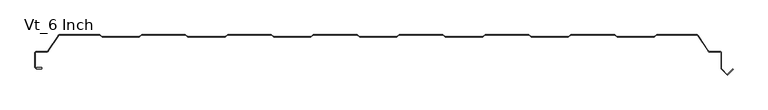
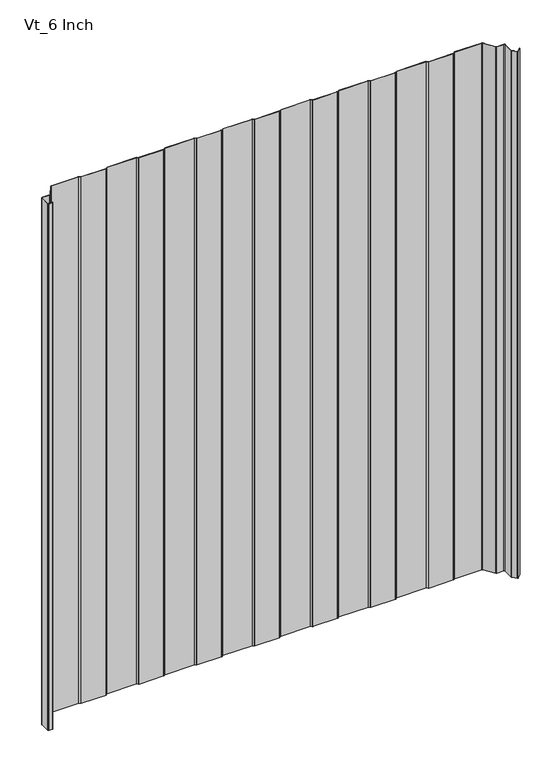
"""IFC4 building model written with IfcOpenShell, lengths in millimetres: plate geometry, KIP_R19_CP_KingSeam_Vt_Roof Panel : Vt_6 Inch."""

from ifc_helpers import new_model, si_unit, point, frame_2d, origin, origin_with_axes, place, context, project, spatial, polyline, circle_curve, trimmed, segment, composite_curve, outline, extrude, source, transform, mapped, element, save


def vt_6_inch_eceeb9c5(model_context):
    return source(origin(), model_context, "Body", "SweptSolid", [
        extrude(outline(composite_curve([segment(polyline([(353.2057294, -152.6158084), (349.7460358, -150.115881), (285.172478, -150.115881), (281.7127828, -152.615809)]), True, "CONTINUOUS"), segment(trimmed(circle_curve(frame_2d((280.8342564, -151.4000005)), 1.4999996), [point((281.7127828, -152.615809))], [point((280.833285, -152.8999998))], False, "CARTESIAN"), True, "CONTINUOUS"), segment(polyline([(280.833285, -152.8999998), (227.0842565, -152.8999998)]), True, "CONTINUOUS"), segment(trimmed(circle_curve(frame_2d((227.0842565, -151.3999998)), 1.5), [point((227.0842565, -152.8999998))], [point((226.2057297, -152.6158085))], False, "CARTESIAN"), True, "CONTINUOUS"), segment(polyline([(226.2057297, -152.6158085), (222.7460351, -150.1158804), (158.1724783, -150.1158804), (154.7127834, -152.6158085)]), True, "CONTINUOUS"), segment(trimmed(circle_curve(frame_2d((153.8342567, -151.3999998)), 1.4999999), [point((154.7127834, -152.6158085))], [point((153.8332853, -152.8999994))], False, "CARTESIAN"), True, "CONTINUOUS"), segment(polyline([(153.8332853, -152.8999994), (100.0842567, -152.8999994)]), True, "CONTINUOUS"), segment(trimmed(circle_curve(frame_2d((100.0842567, -151.3999995)), 1.4999999), [point((100.0842567, -152.8999994))], [point((99.20573, -152.6158082))], False, "CARTESIAN"), True, "CONTINUOUS"), segment(polyline([(99.20573, -152.6158082), (95.7460356, -150.1158804), (31.1724783, -150.1158804), (27.7127834, -152.6158085)]), True, "CONTINUOUS"), segment(trimmed(circle_curve(frame_2d((26.8342567, -151.3999998)), 1.5), [point((27.7127834, -152.6158085))], [point((26.8332853, -152.8999995))], False, "CARTESIAN"), True, "CONTINUOUS"), segment(polyline([(26.8332853, -152.8999995), (-26.9157433, -152.8999995)]), True, "CONTINUOUS"), segment(trimmed(circle_curve(frame_2d((-26.9157433, -151.3999995)), 1.5), [point((-26.9157433, -152.8999995))], [point((-27.79427, -152.6158082))], False, "CARTESIAN"), True, "CONTINUOUS"), segment(polyline([(-27.79427, -152.6158082), (-31.2539644, -150.1158804), (-95.8275217, -150.1158804), (-99.2872166, -152.6158085)]), True, "CONTINUOUS"), segment(trimmed(circle_curve(frame_2d((-100.1657433, -151.3999998)), 1.5), [point((-99.2872166, -152.6158085))], [point((-100.1667147, -152.8999995))], False, "CARTESIAN"), True, "CONTINUOUS"), segment(polyline([(-100.1667147, -152.8999995), (-153.9157432, -152.8999995)]), True, "CONTINUOUS"), segment(trimmed(circle_curve(frame_2d((-153.9157432, -151.3999995)), 1.5), [point((-153.9157432, -152.8999995))], [point((-154.79427, -152.6158082))], False, "CARTESIAN"), True, "CONTINUOUS"), segment(polyline([(-154.79427, -152.6158082), (-158.2539643, -150.1158804), (-222.8275216, -150.1158804), (-226.287216, -152.6158087)]), True, "CONTINUOUS"), segment(trimmed(circle_curve(frame_2d((-227.1657431, -151.3999998)), 1.5000003), [point((-226.287216, -152.6158087))], [point((-227.1667145, -152.8999999))], False, "CARTESIAN"), True, "CONTINUOUS"), segment(polyline([(-227.1667145, -152.8999999), (-280.9157431, -152.8999999)]), True, "CONTINUOUS"), segment(trimmed(circle_curve(frame_2d((-280.9157431, -151.3999998)), 1.5), [point((-280.9157431, -152.8999999))], [point((-281.7942699, -152.6158085))], False, "CARTESIAN"), True, "CONTINUOUS"), segment(polyline([(-281.7942699, -152.6158085), (-285.2539646, -150.1158804), (-349.8275214, -150.1158804), (-353.2872163, -152.6158085)]), True, "CONTINUOUS"), segment(trimmed(circle_curve(frame_2d((-354.165743, -151.3999999)), 1.4999999), [point((-353.2872163, -152.6158085))], [point((-354.1667144, -152.8999995))], False, "CARTESIAN"), True, "CONTINUOUS"), segment(polyline([(-354.1667144, -152.8999995), (-407.9157429, -152.8999995)]), True, "CONTINUOUS"), segment(trimmed(circle_curve(frame_2d((-407.9157429, -151.3999994)), 1.5000001), [point((-407.9157429, -152.8999995))], [point((-408.7942697, -152.6158081))], False, "CARTESIAN"), True, "CONTINUOUS"), segment(polyline([(-408.7942697, -152.6158081), (-412.2539635, -150.1158806), (-471.4278921, -150.1158806)]), True, "CONTINUOUS"), segment(trimmed(circle_curve(frame_2d((-471.4278921, -152.1158804)), 1.9999997), [point((-471.4278921, -150.1158806))], [point((-473.0959478, -151.0124361))], True, "CARTESIAN"), True, "CONTINUOUS"), segment(polyline([(-473.0959478, -151.0124361), (-488.2993864, -173.9951861)]), True, "CONTINUOUS"), segment(trimmed(circle_curve(frame_2d((-490.3844563, -172.6158807)), 2.4999999), [point((-488.2993864, -173.9951861))], [point((-490.3844563, -175.1158806))], False, "CARTESIAN"), True, "CONTINUOUS"), segment(polyline([(-490.3844563, -175.1158806), (-505.9407428, -175.1158806)]), True, "CONTINUOUS"), segment(trimmed(circle_curve(frame_2d((-505.9407428, -176.7158806)), 1.6), [point((-505.9407428, -175.1158806))], [point((-507.5407428, -176.7158806))], True, "CARTESIAN"), True, "CONTINUOUS"), segment(polyline([(-507.5407428, -176.7158806), (-507.5407428, -197.5669597)]), True, "CONTINUOUS"), segment(trimmed(circle_curve(frame_2d((-506.3507428, -197.5669597)), 1.19), [point((-507.5407428, -197.5669597))], [point((-507.1921999, -198.4084168))], True, "CARTESIAN"), True, "CONTINUOUS"), segment(polyline([(-507.1921999, -198.4084168), (-506.182179, -199.4184377)]), True, "CONTINUOUS"), segment(trimmed(circle_curve(frame_2d((-505.3407219, -198.5769807)), 1.19), [point((-506.182179, -199.4184377))], [point((-505.3407219, -199.7669807))], True, "CARTESIAN"), True, "CONTINUOUS"), segment(polyline([(-505.3407219, -199.7669807), (-498.6107428, -199.7669807)]), True, "CONTINUOUS"), segment(trimmed(circle_curve(frame_2d((-498.6107428, -199.3669807)), 0.4), [point((-498.6107428, -199.7669807))], [point((-498.6107428, -198.9669807))], True, "CARTESIAN"), True, "CONTINUOUS"), segment(polyline([(-498.6107428, -198.9669807), (-505.3407219, -198.9669807), (-505.3407219, -198.1669807), (-498.6107428, -198.1669807)]), True, "CONTINUOUS"), segment(trimmed(circle_curve(frame_2d((-498.6107428, -199.2169807)), 1.05), [point((-498.6107428, -198.1669807))], [point((-498.6107428, -200.2669807))], False, "CARTESIAN"), True, "CONTINUOUS"), segment(polyline([(-498.6107428, -200.2669807), (-505.3407219, -200.2669807)]), True, "CONTINUOUS"), segment(trimmed(circle_curve(frame_2d((-505.3407219, -198.5769807)), 1.69), [point((-505.3407219, -200.2669807))], [point((-506.5357325, -199.771991))], False, "CARTESIAN"), True, "CONTINUOUS"), segment(polyline([(-506.5357325, -199.771991), (-507.5457533, -198.76197)]), True, "CONTINUOUS"), segment(trimmed(circle_curve(frame_2d((-506.3507428, -197.5669597)), 1.6899998), [point((-507.5457533, -198.76197))], [point((-508.0407427, -197.5669597))], False, "CARTESIAN"), True, "CONTINUOUS"), segment(polyline([(-508.0407427, -197.5669597), (-508.0407427, -176.7158805)]), True, "CONTINUOUS"), segment(trimmed(circle_curve(frame_2d((-505.9407428, -176.7158805)), 2.0999998), [point((-508.0407427, -176.7158805))], [point((-505.9407428, -174.6158807))], False, "CARTESIAN"), True, "CONTINUOUS"), segment(polyline([(-505.9407428, -174.6158807), (-490.3844563, -174.6158807)]), True, "CONTINUOUS"), segment(trimmed(circle_curve(frame_2d((-490.3844563, -172.6158807)), 2.0), [point((-490.3844563, -174.6158807))], [point((-488.7164003, -173.719325))], True, "CARTESIAN"), True, "CONTINUOUS"), segment(polyline([(-488.7164003, -173.719325), (-473.512962, -150.7365749)]), True, "CONTINUOUS"), segment(trimmed(circle_curve(frame_2d((-471.4278921, -152.1158804)), 2.5), [point((-473.512962, -150.7365749))], [point((-471.4278921, -149.6158803))], False, "CARTESIAN"), True, "CONTINUOUS"), segment(polyline([(-471.4278921, -149.6158803), (-412.2539644, -149.6158803), (-408.7942697, -152.1158086)]), True, "CONTINUOUS"), segment(trimmed(circle_curve(frame_2d((-407.9157429, -150.8999998)), 1.5000002), [point((-408.7942697, -152.1158086))], [point((-407.9157429, -152.3999999))], True, "CARTESIAN"), True, "CONTINUOUS"), segment(polyline([(-407.9157429, -152.3999999), (-354.1657429, -152.3999999)]), True, "CONTINUOUS"), segment(trimmed(circle_curve(frame_2d((-354.1657429, -150.8999999)), 1.5), [point((-354.1657429, -152.3999999))], [point((-353.2872161, -152.1158086))], True, "CARTESIAN"), True, "CONTINUOUS"), segment(polyline([(-353.2872161, -152.1158086), (-349.8275214, -149.6158803), (-285.2539646, -149.6158803), (-281.7942699, -152.1158087)]), True, "CONTINUOUS"), segment(trimmed(circle_curve(frame_2d((-280.9157431, -150.9000001)), 1.5), [point((-281.7942699, -152.1158087))], [point((-280.9157431, -152.4000001))], True, "CARTESIAN"), True, "CONTINUOUS"), segment(polyline([(-280.9157431, -152.4000001), (-227.1657431, -152.4000001)]), True, "CONTINUOUS"), segment(trimmed(circle_curve(frame_2d((-227.1657431, -150.9000001)), 1.5), [point((-227.1657431, -152.4000001))], [point((-226.2872164, -152.1158088))], True, "CARTESIAN"), True, "CONTINUOUS"), segment(polyline([(-226.2872164, -152.1158088), (-222.8275211, -149.6158803), (-158.2539647, -149.6158803), (-154.79427, -152.1158086)]), True, "CONTINUOUS"), segment(trimmed(circle_curve(frame_2d((-153.9157433, -150.8999999)), 1.5), [point((-154.79427, -152.1158086))], [point((-153.9157433, -152.3999999))], True, "CARTESIAN"), True, "CONTINUOUS"), segment(polyline([(-153.9157433, -152.3999999), (-100.1657433, -152.3999999)]), True, "CONTINUOUS"), segment(trimmed(circle_curve(frame_2d((-100.1657433, -150.9000001)), 1.4999998), [point((-100.1657433, -152.3999999))], [point((-99.2872167, -152.1158087))], True, "CARTESIAN"), True, "CONTINUOUS"), segment(polyline([(-99.2872167, -152.1158087), (-95.8275213, -149.6158803), (-31.2539649, -149.6158803), (-27.7942701, -152.1158086)]), True, "CONTINUOUS"), segment(trimmed(circle_curve(frame_2d((-26.9157433, -150.8999999)), 1.5000001), [point((-27.7942701, -152.1158086))], [point((-26.9157433, -152.4))], True, "CARTESIAN"), True, "CONTINUOUS"), segment(polyline([(-26.9157433, -152.4), (26.8342567, -152.4)]), True, "CONTINUOUS"), segment(trimmed(circle_curve(frame_2d((26.8342567, -150.9000001)), 1.4999999), [point((26.8342567, -152.4))], [point((27.7127833, -152.1158087))], True, "CARTESIAN"), True, "CONTINUOUS"), segment(polyline([(27.7127833, -152.1158087), (31.1724787, -149.6158803), (95.7460351, -149.6158803), (99.20573, -152.1158084)]), True, "CONTINUOUS"), segment(trimmed(circle_curve(frame_2d((100.0842567, -150.8999998)), 1.4999999), [point((99.20573, -152.1158084))], [point((100.0842567, -152.3999997))], True, "CARTESIAN"), True, "CONTINUOUS"), segment(polyline([(100.0842567, -152.3999997), (153.8342567, -152.3999997)]), True, "CONTINUOUS"), segment(trimmed(circle_curve(frame_2d((153.8342567, -150.8999996)), 1.5), [point((153.8342567, -152.3999997))], [point((154.7127834, -152.1158084))], True, "CARTESIAN"), True, "CONTINUOUS"), segment(polyline([(154.7127834, -152.1158084), (158.1724783, -149.6158803), (222.7460351, -149.6158803), (226.2057297, -152.1158084)]), True, "CONTINUOUS"), segment(trimmed(circle_curve(frame_2d((227.0842565, -150.8999997)), 1.5), [point((226.2057297, -152.1158084))], [point((227.0842565, -152.3999997))], True, "CARTESIAN"), True, "CONTINUOUS"), segment(polyline([(227.0842565, -152.3999997), (280.8342564, -152.3999997)]), True, "CONTINUOUS"), segment(trimmed(circle_curve(frame_2d((280.8342564, -150.9000002)), 1.4999994), [point((280.8342564, -152.3999997))], [point((281.7127826, -152.1158086))], True, "CARTESIAN"), True, "CONTINUOUS"), segment(polyline([(281.7127826, -152.1158086), (285.1724789, -149.6158803), (349.7460348, -149.6158803), (353.2057295, -152.1158083)]), True, "CONTINUOUS"), segment(trimmed(circle_curve(frame_2d((354.0842562, -150.8999997)), 1.4999999), [point((353.2057295, -152.1158083))], [point((354.0842562, -152.3999996))], True, "CARTESIAN"), True, "CONTINUOUS"), segment(polyline([(354.0842562, -152.3999996), (407.8342561, -152.3999996)]), True, "CONTINUOUS"), segment(trimmed(circle_curve(frame_2d((407.8342561, -150.8999999)), 1.4999998), [point((407.8342561, -152.3999996))], [point((408.7127826, -152.1158084))], True, "CARTESIAN"), True, "CONTINUOUS"), segment(polyline([(408.7127826, -152.1158084), (412.1724777, -149.6158803), (471.346405, -149.6158803)]), True, "CONTINUOUS"), segment(trimmed(circle_curve(frame_2d((471.346405, -152.1158801)), 2.4999998), [point((471.346405, -149.6158803))], [point((473.4314747, -150.7365748))], False, "CARTESIAN"), True, "CONTINUOUS"), segment(polyline([(473.4314747, -150.7365748), (488.6349132, -173.719325)]), True, "CONTINUOUS"), segment(trimmed(circle_curve(frame_2d((490.3029691, -172.6158806)), 2.0), [point((488.6349132, -173.719325))], [point((490.3029691, -174.6158806))], True, "CARTESIAN"), True, "CONTINUOUS"), segment(polyline([(490.3029691, -174.6158806), (505.8592557, -174.6158806)]), True, "CONTINUOUS"), segment(trimmed(circle_curve(frame_2d((505.8592557, -176.7158807)), 2.1000001), [point((505.8592557, -174.6158806))], [point((507.9592557, -176.7158807))], False, "CARTESIAN"), True, "CONTINUOUS"), segment(polyline([(507.9592557, -176.7158807), (507.9592557, -199.6505141)]), True, "CONTINUOUS"), segment(trimmed(circle_curve(frame_2d((509.4592557, -199.6505141)), 1.5), [point((507.9592557, -199.6505141))], [point((508.3985956, -200.7111742))], True, "CARTESIAN"), True, "CONTINUOUS"), segment(polyline([(508.3985956, -200.7111742), (515.9184168, -208.2309954)]), True, "CONTINUOUS"), segment(trimmed(circle_curve(frame_2d((516.4443275, -207.2012712)), 1.15625), [point((515.9184168, -208.2309954))], [point((517.2619197, -208.0188634))], True, "CARTESIAN"), True, "CONTINUOUS"), segment(polyline([(517.2619197, -208.0188634), (524.6158302, -200.6649529), (525.1815156, -201.2306383), (517.8276051, -208.5845488)]), True, "CONTINUOUS"), segment(trimmed(circle_curve(frame_2d((516.6962342, -207.453178)), 1.6), [point((517.8276051, -208.5845488))], [point((515.5648634, -208.5845488))], False, "CARTESIAN"), True, "CONTINUOUS"), segment(polyline([(515.5648634, -208.5845488), (508.0450422, -201.0647276)]), True, "CONTINUOUS"), segment(trimmed(circle_curve(frame_2d((509.4592557, -199.6505141)), 2.0), [point((508.0450422, -201.0647276))], [point((507.4592557, -199.6505141))], False, "CARTESIAN"), True, "CONTINUOUS"), segment(polyline([(507.4592557, -199.6505141), (507.4592557, -176.7158807)]), True, "CONTINUOUS"), segment(trimmed(circle_curve(frame_2d((505.8592556, -176.7158807)), 1.6000001), [point((507.4592557, -176.7158807))], [point((505.8592556, -175.1158806))], True, "CARTESIAN"), True, "CONTINUOUS"), segment(polyline([(505.8592556, -175.1158806), (490.3029691, -175.1158806)]), True, "CONTINUOUS"), segment(trimmed(circle_curve(frame_2d((490.3029691, -172.6158806)), 2.4999999), [point((490.3029691, -175.1158806))], [point((488.2178993, -173.9951861))], False, "CARTESIAN"), True, "CONTINUOUS"), segment(polyline([(488.2178993, -173.9951861), (473.0144605, -151.012436)]), True, "CONTINUOUS"), segment(trimmed(circle_curve(frame_2d((471.346405, -152.1158801)), 1.9999995), [point((473.0144605, -151.012436))], [point((471.346405, -150.1158806))], True, "CARTESIAN"), True, "CONTINUOUS"), segment(polyline([(471.346405, -150.1158806), (412.1724777, -150.1158806), (408.7127828, -152.6158088)]), True, "CONTINUOUS"), segment(trimmed(circle_curve(frame_2d((407.8342561, -151.4000001)), 1.5), [point((408.7127828, -152.6158088))], [point((407.8332847, -152.8999997))], False, "CARTESIAN"), True, "CONTINUOUS"), segment(polyline([(407.8332847, -152.8999997), (354.0842561, -152.8999997)]), True, "CONTINUOUS"), segment(trimmed(circle_curve(frame_2d((354.0842561, -151.3999998)), 1.5), [point((354.0842561, -152.8999997))], [point((353.2057294, -152.6158084))], False, "CARTESIAN"), True, "CONTINUOUS")], self_intersect=False)), origin_with_axes(), (0.0, 0.0, 1.0), 1219.2),
    ])


if __name__ == "__main__":
    model = new_model("IFC4")
    model_context = context("Model", 3, world=origin())
    ifc_project = project(units=[si_unit("LENGTHUNIT", "METRE", prefix="MILLI")], contexts=[model_context])
    site = spatial("IfcSite", under=ifc_project)
    building = spatial("IfcBuilding", under=site)
    placement = place(None, origin())
    vt_6_inch_shape = vt_6_inch_eceeb9c5(model_context)
    element("IfcPlate", 1, ObjectType="KIP_R19_CP_KingSeam_Vt_Roof Panel : Vt_6 Inch", at=placement, inside=building, context=model_context, shape_type="MappedRepresentation", body=[
        mapped(vt_6_inch_shape, transform((0.0, 0.0, 0.0), x_axis=(1.0, 0.0, 0.0), y_axis=(0.0, 1.0, 0.0), z_axis=(0.0, 0.0, 1.0))),
    ])
    save(model, "model.ifc")
